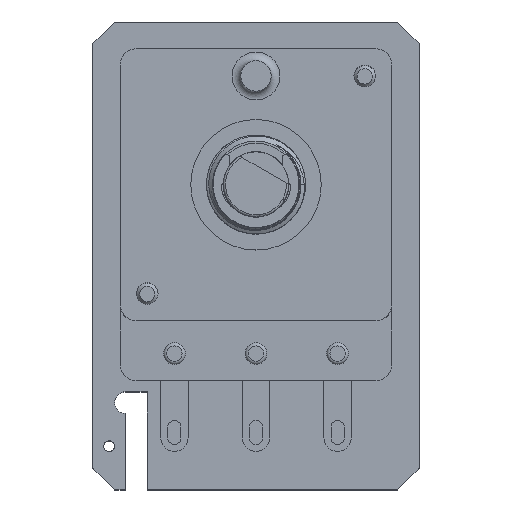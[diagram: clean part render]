
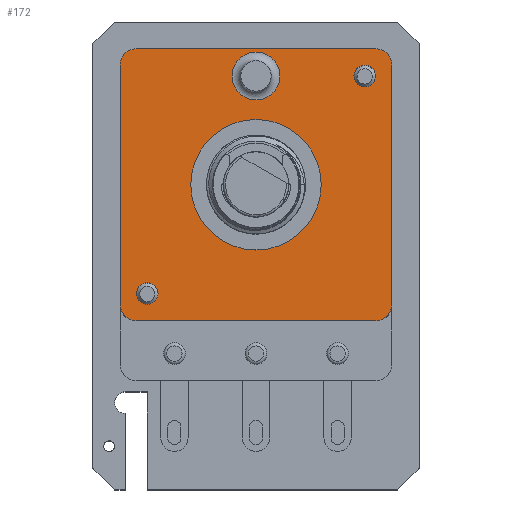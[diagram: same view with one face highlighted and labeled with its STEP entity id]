
A CAD part, top view. The second image highlights one B-rep face of the part: STEP entity #172.
In plain terms, the highlighted planar face has unit normal (0, 0, 1).
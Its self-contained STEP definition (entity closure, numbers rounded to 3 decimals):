
#144 = VERTEX_POINT('',#145);
#145 = CARTESIAN_POINT('',(11.,10.,-1.));
#152 = EDGE_CURVE('',#144,#144,#153,.T.);
#153 = CIRCLE('',#154,1.);
#154 = AXIS2_PLACEMENT_3D('',#155,#156,#157);
#155 = CARTESIAN_POINT('',(10.,10.,-1.));
#156 = DIRECTION('',(0.,0.,-1.));
#157 = DIRECTION('',(1.,0.,0.));
#172 = ADVANCED_FACE('',(#173,#243,#254,#265,#276),#279,.T.);
#173 = FACE_BOUND('',#174,.T.);
#174 = EDGE_LOOP('',(#175,#185,#194,#202,#211,#219,#228,#236));
#175 = ORIENTED_EDGE('',*,*,#176,.F.);
#176 = EDGE_CURVE('',#177,#179,#181,.T.);
#177 = VERTEX_POINT('',#178);
#178 = CARTESIAN_POINT('',(-12.5,-11.,-1.));
#179 = VERTEX_POINT('',#180);
#180 = CARTESIAN_POINT('',(-12.5,11.,-1.));
#181 = LINE('',#182,#183);
#182 = CARTESIAN_POINT('',(-12.5,-12.5,-1.));
#183 = VECTOR('',#184,1.);
#184 = DIRECTION('',(0.,1.,0.));
#185 = ORIENTED_EDGE('',*,*,#186,.T.);
#186 = EDGE_CURVE('',#177,#187,#189,.T.);
#187 = VERTEX_POINT('',#188);
#188 = CARTESIAN_POINT('',(-11.,-12.5,-1.));
#189 = CIRCLE('',#190,1.5);
#190 = AXIS2_PLACEMENT_3D('',#191,#192,#193);
#191 = CARTESIAN_POINT('',(-11.,-11.,-1.));
#192 = DIRECTION('',(-0.,0.,1.));
#193 = DIRECTION('',(0.,-1.,0.));
#194 = ORIENTED_EDGE('',*,*,#195,.T.);
#195 = EDGE_CURVE('',#187,#196,#198,.T.);
#196 = VERTEX_POINT('',#197);
#197 = CARTESIAN_POINT('',(11.,-12.5,-1.));
#198 = LINE('',#199,#200);
#199 = CARTESIAN_POINT('',(-12.5,-12.5,-1.));
#200 = VECTOR('',#201,1.);
#201 = DIRECTION('',(1.,0.,0.));
#202 = ORIENTED_EDGE('',*,*,#203,.T.);
#203 = EDGE_CURVE('',#196,#204,#206,.T.);
#204 = VERTEX_POINT('',#205);
#205 = CARTESIAN_POINT('',(12.5,-11.,-1.));
#206 = CIRCLE('',#207,1.5);
#207 = AXIS2_PLACEMENT_3D('',#208,#209,#210);
#208 = CARTESIAN_POINT('',(11.,-11.,-1.));
#209 = DIRECTION('',(-0.,0.,1.));
#210 = DIRECTION('',(0.,-1.,0.));
#211 = ORIENTED_EDGE('',*,*,#212,.T.);
#212 = EDGE_CURVE('',#204,#213,#215,.T.);
#213 = VERTEX_POINT('',#214);
#214 = CARTESIAN_POINT('',(12.5,11.,-1.));
#215 = LINE('',#216,#217);
#216 = CARTESIAN_POINT('',(12.5,-12.5,-1.));
#217 = VECTOR('',#218,1.);
#218 = DIRECTION('',(0.,1.,0.));
#219 = ORIENTED_EDGE('',*,*,#220,.F.);
#220 = EDGE_CURVE('',#221,#213,#223,.T.);
#221 = VERTEX_POINT('',#222);
#222 = CARTESIAN_POINT('',(11.,12.5,-1.));
#223 = CIRCLE('',#224,1.5);
#224 = AXIS2_PLACEMENT_3D('',#225,#226,#227);
#225 = CARTESIAN_POINT('',(11.,11.,-1.));
#226 = DIRECTION('',(-0.,-0.,-1.));
#227 = DIRECTION('',(0.,-1.,0.));
#228 = ORIENTED_EDGE('',*,*,#229,.F.);
#229 = EDGE_CURVE('',#230,#221,#232,.T.);
#230 = VERTEX_POINT('',#231);
#231 = CARTESIAN_POINT('',(-11.,12.5,-1.));
#232 = LINE('',#233,#234);
#233 = CARTESIAN_POINT('',(-12.5,12.5,-1.));
#234 = VECTOR('',#235,1.);
#235 = DIRECTION('',(1.,0.,0.));
#236 = ORIENTED_EDGE('',*,*,#237,.F.);
#237 = EDGE_CURVE('',#179,#230,#238,.T.);
#238 = CIRCLE('',#239,1.5);
#239 = AXIS2_PLACEMENT_3D('',#240,#241,#242);
#240 = CARTESIAN_POINT('',(-11.,11.,-1.));
#241 = DIRECTION('',(-0.,-0.,-1.));
#242 = DIRECTION('',(0.,-1.,0.));
#243 = FACE_BOUND('',#244,.T.);
#244 = EDGE_LOOP('',(#245));
#245 = ORIENTED_EDGE('',*,*,#246,.T.);
#246 = EDGE_CURVE('',#247,#247,#249,.T.);
#247 = VERTEX_POINT('',#248);
#248 = CARTESIAN_POINT('',(-9.,-10.,-1.));
#249 = CIRCLE('',#250,1.);
#250 = AXIS2_PLACEMENT_3D('',#251,#252,#253);
#251 = CARTESIAN_POINT('',(-10.,-10.,-1.));
#252 = DIRECTION('',(0.,0.,-1.));
#253 = DIRECTION('',(1.,0.,0.));
#254 = FACE_BOUND('',#255,.T.);
#255 = EDGE_LOOP('',(#256));
#256 = ORIENTED_EDGE('',*,*,#257,.F.);
#257 = EDGE_CURVE('',#258,#258,#260,.T.);
#258 = VERTEX_POINT('',#259);
#259 = CARTESIAN_POINT('',(6.,0.,-1.));
#260 = CIRCLE('',#261,6.);
#261 = AXIS2_PLACEMENT_3D('',#262,#263,#264);
#262 = CARTESIAN_POINT('',(0.,0.,-1.));
#263 = DIRECTION('',(0.,0.,1.));
#264 = DIRECTION('',(1.,0.,-0.));
#265 = FACE_BOUND('',#266,.T.);
#266 = EDGE_LOOP('',(#267));
#267 = ORIENTED_EDGE('',*,*,#268,.F.);
#268 = EDGE_CURVE('',#269,#269,#271,.T.);
#269 = VERTEX_POINT('',#270);
#270 = CARTESIAN_POINT('',(2.2,10.,-1.));
#271 = CIRCLE('',#272,2.2);
#272 = AXIS2_PLACEMENT_3D('',#273,#274,#275);
#273 = CARTESIAN_POINT('',(0.,10.,-1.));
#274 = DIRECTION('',(0.,0.,1.));
#275 = DIRECTION('',(1.,0.,-0.));
#276 = FACE_BOUND('',#277,.T.);
#277 = EDGE_LOOP('',(#278));
#278 = ORIENTED_EDGE('',*,*,#152,.T.);
#279 = PLANE('',#280);
#280 = AXIS2_PLACEMENT_3D('',#281,#282,#283);
#281 = CARTESIAN_POINT('',(-12.5,-12.5,-1.));
#282 = DIRECTION('',(0.,0.,1.));
#283 = DIRECTION('',(1.,0.,-0.));
